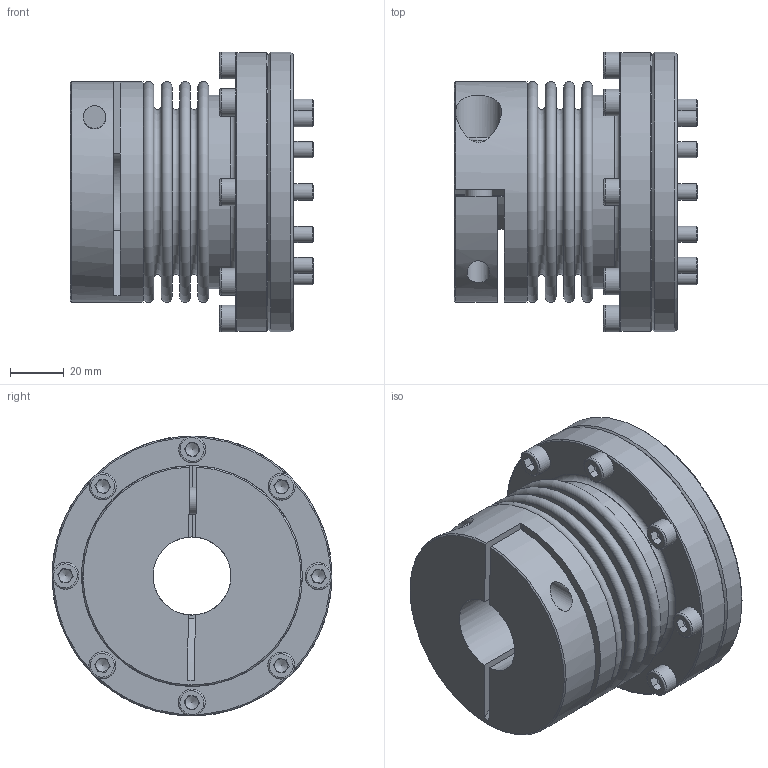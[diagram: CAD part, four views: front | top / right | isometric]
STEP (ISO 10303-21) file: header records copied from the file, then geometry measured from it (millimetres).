
FILE_DESCRIPTION( ( 'Unknown' ), '1' );
FILE_NAME( 'C:/Users/skarpstein/Desktop/KB4F/KB4F-150-79.stp', 'Unknown', ( 'Unknown' ), ( 'Unknown' ), 'PSStep 16.0.42', 'Unknown', ' ' );
FILE_SCHEMA( ( 'AUTOMOTIVE_DESIGN { 1 0 10303 214 1 1 1 1 }' ) );
Length unit declared in the file: millimetre
Products named in the file (8): Assem1; KN80-150C_Standard; Socket Head Cap Screw_DIN_DIN 912 M10 x 30 --- 30N_8; BK80-150_Standard_3; ISO 4017 - M6 x 20-N; Kupplungsflansch F150; Flansch A63-F150; Socket Head Cap Screw_DIN_DIN 912 M6 x 20 --- 20C
Assembly tree (25 placements, depth 2):
  Assem1
    KN80-150C_Standard
    Socket Head Cap Screw_DIN_DIN 912 M10 x 30 --- 30N_8
    BK80-150_Standard_3
    ISO 4017 - M6 x 20-N  x12
    Kupplungsflansch F150
    Flansch A63-F150
    Socket Head Cap Screw_DIN_DIN 912 M6 x 20 --- 20C  x8
Bounding box: 90.4 x 104 x 104 mm (x, y, z)
Volume: 272582.3 mm3; surface area: 133452.3 mm2
Topology: 25 solids, 25 shells, 603 faces, 1307 edges, 795 vertices
Faces by surface type: plane 354, cone 114, cylinder 89, torus 46
Full cylindrical faces by diameter (mm): 4.917 x8, 6 x20, 6.6 x20, 8.5 x1, 10 x22, 16 x1, 17 x1, 29 x1, 45 x1, 50 x1, 70.7 x3, 71.9 x2, 80 x3, 82 x1, 104 x2
Entity records: 6466 total; most frequent: CARTESIAN_POINT 943, DIRECTION 876, ORIENTED_EDGE 582, AXIS2_PLACEMENT_3D 394, EDGE_LOOP 360, EDGE_CURVE 291, FACE_OUTER_BOUND 253, VERTEX_POINT 245
